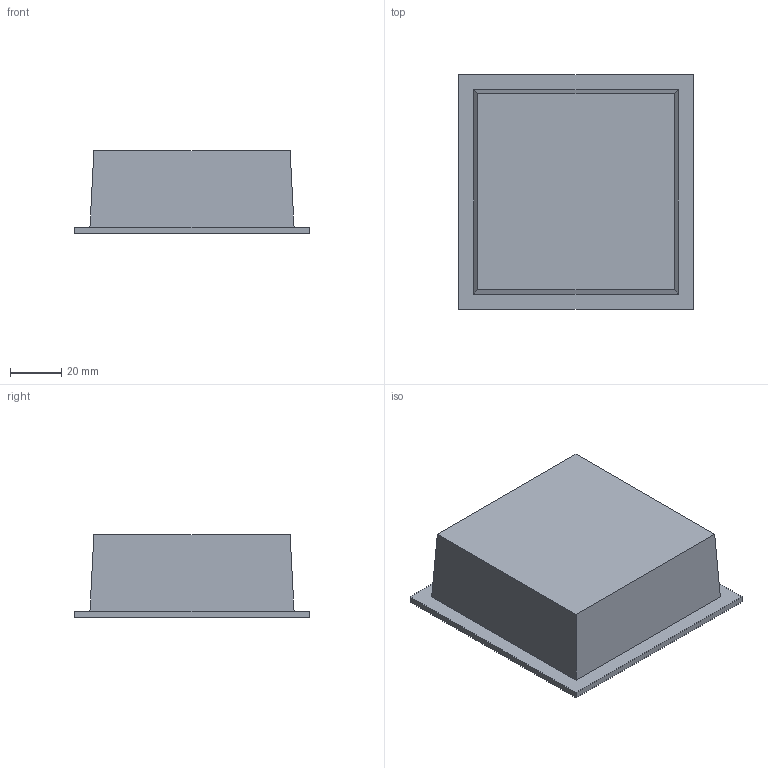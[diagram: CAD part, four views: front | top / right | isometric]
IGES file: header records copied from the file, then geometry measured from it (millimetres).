
Start section: SolidWorks IGES file using analytic representation for surfaces
Global section: file name: X:\PRODUKT\Modele 3D_WWW\_KOLEKCJE WWW\MINI\MIDI-LED-10061-10064\MIDI-LED-10061-10064.IGS; native system: SolidWorks 2021; preprocessor: SolidWorks 2021; author: gabriela.tworek; date: 220603.095707; units: millimetre
Bounding box: 92 x 92 x 32.5 mm (x, y, z)
Surface area: 67259 mm2 (no closed solid volume)
Topology: 0 solids, 0 shells, 114 faces, 380 edges, 356 vertices
Faces by surface type: bspline 90, revolution 24
